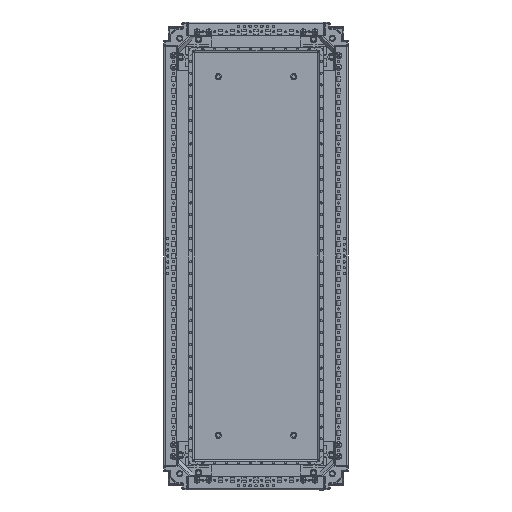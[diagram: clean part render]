
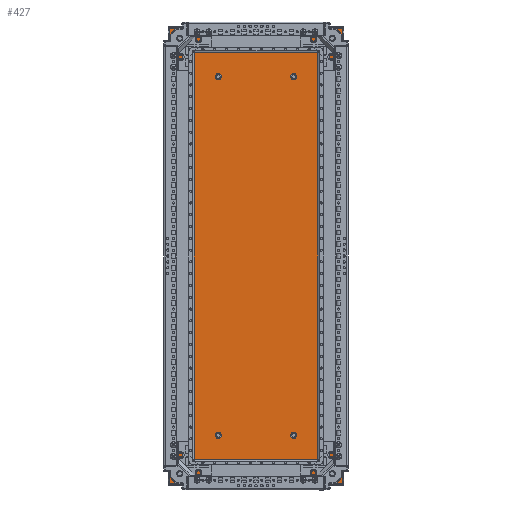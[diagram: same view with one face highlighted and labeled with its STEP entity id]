
A CAD part, front view. The second image highlights one B-rep face of the part: STEP entity #427.
In plain terms, the highlighted planar face has unit normal (0, -1, 0).
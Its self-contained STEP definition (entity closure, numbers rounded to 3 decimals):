
#427=ADVANCED_FACE('',(#3182,#3184,#3186,#3188,#3190,#3192,#3194,#3196,#3198),#3200,
.T.);
#3182=FACE_BOUND('',#3183,.T.);
#3183=EDGE_LOOP('',(#23801,#23802,#23803,#23804));
#3184=FACE_BOUND('',#3185,.T.);
#3185=EDGE_LOOP('',(#23805));
#3186=FACE_BOUND('',#3187,.T.);
#3187=EDGE_LOOP('',(#23806));
#3188=FACE_BOUND('',#3189,.T.);
#3189=EDGE_LOOP('',(#23807));
#3190=FACE_BOUND('',#3191,.T.);
#3191=EDGE_LOOP('',(#23808));
#3192=FACE_BOUND('',#3193,.T.);
#3193=EDGE_LOOP('',(#23809));
#3194=FACE_BOUND('',#3195,.T.);
#3195=EDGE_LOOP('',(#23810));
#3196=FACE_BOUND('',#3197,.T.);
#3197=EDGE_LOOP('',(#23811));
#3198=FACE_BOUND('',#3199,.T.);
#3199=EDGE_LOOP('',(#23812));
#3200=PLANE('',#3201);
#3201=AXIS2_PLACEMENT_3D('',#3202,#3203,#3204);
#3202=CARTESIAN_POINT('',(0.,-1.4,0.));
#3203=DIRECTION('',(0.,-1.,0.));
#3204=DIRECTION('',(-1.,0.,0.));
#23801=ORIENTED_EDGE('',*,*,#35385,.F.);
#23802=ORIENTED_EDGE('',*,*,#35386,.F.);
#23803=ORIENTED_EDGE('',*,*,#35387,.F.);
#23804=ORIENTED_EDGE('',*,*,#35388,.F.);
#23805=ORIENTED_EDGE('',*,*,#35258,.T.);
#23806=ORIENTED_EDGE('',*,*,#35260,.F.);
#23807=ORIENTED_EDGE('',*,*,#35262,.T.);
#23808=ORIENTED_EDGE('',*,*,#35264,.F.);
#23809=ORIENTED_EDGE('',*,*,#35270,.T.);
#23810=ORIENTED_EDGE('',*,*,#35268,.T.);
#23811=ORIENTED_EDGE('',*,*,#35272,.T.);
#23812=ORIENTED_EDGE('',*,*,#35266,.T.);
#35258=EDGE_CURVE('',#41067,#41067,#41068,.T.);
#35260=EDGE_CURVE('',#41071,#41071,#41072,.T.);
#35262=EDGE_CURVE('',#41075,#41075,#41076,.T.);
#35264=EDGE_CURVE('',#41079,#41079,#41080,.T.);
#35266=EDGE_CURVE('',#41083,#41083,#41084,.T.);
#35268=EDGE_CURVE('',#41087,#41087,#41088,.T.);
#35270=EDGE_CURVE('',#41091,#41091,#41092,.T.);
#35272=EDGE_CURVE('',#41095,#41095,#41096,.T.);
#35385=EDGE_CURVE('',#41289,#41290,#41291,.T.);
#35386=EDGE_CURVE('',#41292,#41289,#41293,.T.);
#35387=EDGE_CURVE('',#41294,#41292,#41295,.T.);
#35388=EDGE_CURVE('',#41290,#41294,#41296,.T.);
#41067=VERTEX_POINT('',#50870);
#41068=CIRCLE('',#50871,0.5);
#41071=VERTEX_POINT('',#50880);
#41072=CIRCLE('',#50881,0.5);
#41075=VERTEX_POINT('',#50890);
#41076=CIRCLE('',#50891,0.5);
#41079=VERTEX_POINT('',#50900);
#41080=CIRCLE('',#50901,0.5);
#41083=VERTEX_POINT('',#50910);
#41084=CIRCLE('',#50911,10.);
#41087=VERTEX_POINT('',#50920);
#41088=CIRCLE('',#50921,10.);
#41091=VERTEX_POINT('',#50930);
#41092=CIRCLE('',#50931,10.);
#41095=VERTEX_POINT('',#50940);
#41096=CIRCLE('',#50941,10.);
#41289=VERTEX_POINT('',#51485);
#41290=VERTEX_POINT('',#51486);
#41291=LINE('',#51487,#51488);
#41292=VERTEX_POINT('',#51490);
#41293=LINE('',#51491,#51492);
#41294=VERTEX_POINT('',#51494);
#41295=LINE('',#51495,#51496);
#41296=LINE('',#51498,#51499);
#50870=CARTESIAN_POINT('',(79.5,-1.4,-380.));
#50871=AXIS2_PLACEMENT_3D('',#50872,#50873,#50874);
#50872=CARTESIAN_POINT('',(80.,-1.4,-380.));
#50873=DIRECTION('',(0.,1.,0.));
#50874=DIRECTION('',(-1.,0.,0.));
#50880=CARTESIAN_POINT('',(-80.5,-1.4,-380.));
#50881=AXIS2_PLACEMENT_3D('',#50882,#50883,#50884);
#50882=CARTESIAN_POINT('',(-80.,-1.4,-380.));
#50883=DIRECTION('',(0.,-1.,0.));
#50884=DIRECTION('',(1.,0.,0.));
#50890=CARTESIAN_POINT('',(-80.5,-1.4,380.));
#50891=AXIS2_PLACEMENT_3D('',#50892,#50893,#50894);
#50892=CARTESIAN_POINT('',(-80.,-1.4,380.));
#50893=DIRECTION('',(0.,1.,0.));
#50894=DIRECTION('',(-1.,0.,0.));
#50900=CARTESIAN_POINT('',(79.5,-1.4,380.));
#50901=AXIS2_PLACEMENT_3D('',#50902,#50903,#50904);
#50902=CARTESIAN_POINT('',(80.,-1.4,380.));
#50903=DIRECTION('',(0.,-1.,0.));
#50904=DIRECTION('',(1.,0.,0.));
#50910=CARTESIAN_POINT('',(-171.4,-1.4,-461.4));
#50911=AXIS2_PLACEMENT_3D('',#50912,#50913,#50914);
#50912=CARTESIAN_POINT('',(-161.4,-1.4,-461.4));
#50913=DIRECTION('',(0.,1.,0.));
#50914=DIRECTION('',(-1.,0.,0.));
#50920=CARTESIAN_POINT('',(151.4,-1.4,461.4));
#50921=AXIS2_PLACEMENT_3D('',#50922,#50923,#50924);
#50922=CARTESIAN_POINT('',(161.4,-1.4,461.4));
#50923=DIRECTION('',(0.,1.,0.));
#50924=DIRECTION('',(-1.,0.,0.));
#50930=CARTESIAN_POINT('',(-171.4,-1.4,461.4));
#50931=AXIS2_PLACEMENT_3D('',#50932,#50933,#50934);
#50932=CARTESIAN_POINT('',(-161.4,-1.4,461.4));
#50933=DIRECTION('',(0.,1.,0.));
#50934=DIRECTION('',(-1.,0.,0.));
#50940=CARTESIAN_POINT('',(151.4,-1.4,-461.4));
#50941=AXIS2_PLACEMENT_3D('',#50942,#50943,#50944);
#50942=CARTESIAN_POINT('',(161.4,-1.4,-461.4));
#50943=DIRECTION('',(0.,1.,0.));
#50944=DIRECTION('',(-1.,0.,0.));
#51485=CARTESIAN_POINT('',(-183.,-1.4,-483.));
#51486=CARTESIAN_POINT('',(-183.,-1.4,483.));
#51487=CARTESIAN_POINT('',(-183.,-1.4,-483.));
#51488=VECTOR('',#51489,1.);
#51489=DIRECTION('',(0.,0.,1.));
#51490=CARTESIAN_POINT('',(183.,-1.4,-483.));
#51491=CARTESIAN_POINT('',(183.,-1.4,-483.));
#51492=VECTOR('',#51493,1.);
#51493=DIRECTION('',(-1.,0.,0.));
#51494=CARTESIAN_POINT('',(183.,-1.4,483.));
#51495=CARTESIAN_POINT('',(183.,-1.4,483.));
#51496=VECTOR('',#51497,1.);
#51497=DIRECTION('',(0.,0.,-1.));
#51498=CARTESIAN_POINT('',(-183.,-1.4,483.));
#51499=VECTOR('',#51500,1.);
#51500=DIRECTION('',(1.,0.,0.));
